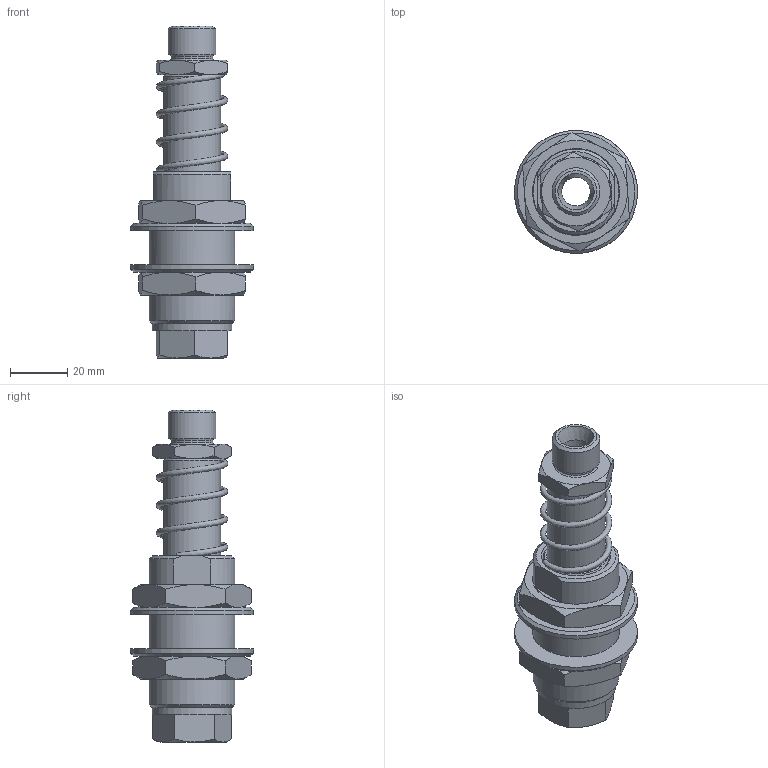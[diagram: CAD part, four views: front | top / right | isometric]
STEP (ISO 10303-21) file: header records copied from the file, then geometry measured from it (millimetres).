
FILE_DESCRIPTION((''),'2;1');
FILE_NAME('W:\Technik\Konstruktion\CAD-Daten\Vakuumkomponenten\50... - 55\50.350\50.350.stp','2014-08-01T12:33:40',('RKob'),(''),'Autodesk Inventor 2012','Autodesk Inventor 2012','');
FILE_SCHEMA(('AUTOMOTIVE_DESIGN { 1 0 10303 214 1 1 1 1 }'));
Length unit declared in the file: millimetre
Products named in the file (9): 50; WSM-2023-12; D-239A-01
Assembly tree (11 placements, depth 2):
  50
    50
    WSM-2023-12  x2
    50
    50
    50  x2
    50  x2
    D-239A-01
    50
Bounding box: 43 x 43 x 116 mm (x, y, z)
Volume: 56994.6 mm3; surface area: 39444.3 mm2
Topology: 11 solids, 11 shells, 172 faces, 340 edges, 201 vertices
Faces by surface type: cone 71, plane 63, cylinder 29, torus 8, bspline 1
Full cylindrical faces by diameter (mm): 10 x1, 12 x1, 13 x1, 13.917 x1, 14.5 x1, 14.95 x1, 15 x1, 16.66 x1, 17 x1, 18 x1, 18.917 x1, 20 x4, 20.5 x2, 23 x4, 28 x1, 28.376 x2, 30 x1, 30.5 x2, 43 x2
Entity records: 3985 total; most frequent: CARTESIAN_POINT 1223, DIRECTION 570, ORIENTED_EDGE 426, AXIS2_PLACEMENT_3D 268, EDGE_LOOP 215, EDGE_CURVE 213, VERTEX_POINT 156, FACE_OUTER_BOUND 137
